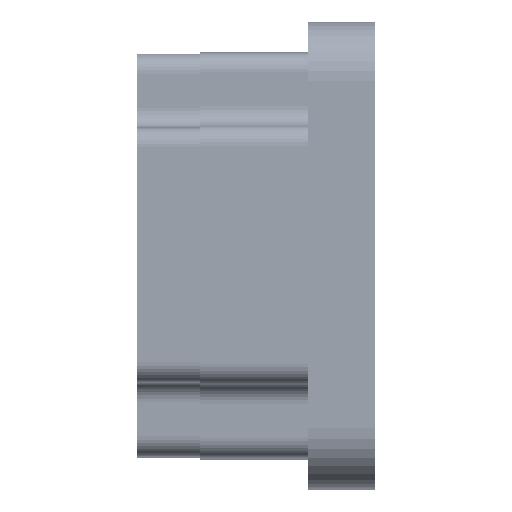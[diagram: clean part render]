
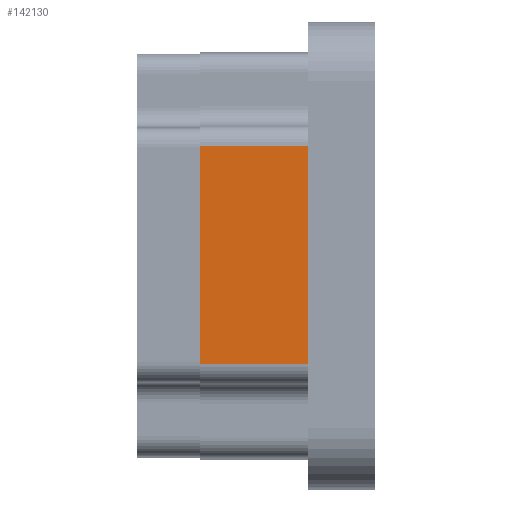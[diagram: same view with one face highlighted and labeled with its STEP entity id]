
A CAD part, top view. The second image highlights one B-rep face of the part: STEP entity #142130.
In plain terms, the highlighted planar face has unit normal (0, 0, 1).
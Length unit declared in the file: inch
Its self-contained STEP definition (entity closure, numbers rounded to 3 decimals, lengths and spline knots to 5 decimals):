
#140685=CARTESIAN_POINT('',(-0.39902,0.38975,4.435));
#140686=VERTEX_POINT('',#140685);
#140694=CARTESIAN_POINT('',(-0.39902,1.07775,4.435));
#140695=VERTEX_POINT('',#140694);
#140696=CARTESIAN_POINT('',(-0.39902,1.07775,4.435));
#140697=DIRECTION('',(0.0,-1.0,0.0));
#140698=VECTOR('',#140697,0.68799);
#140699=LINE('',#140696,#140698);
#140700=EDGE_CURVE('',#140695,#140686,#140699,.T.);
#141662=CARTESIAN_POINT('',(-0.05902,0.38975,4.435));
#141663=VERTEX_POINT('',#141662);
#141671=CARTESIAN_POINT('',(-0.05902,0.38975,4.435));
#141672=DIRECTION('',(-1.0,0.0,0.0));
#141673=VECTOR('',#141672,0.34);
#141674=LINE('',#141671,#141673);
#141675=EDGE_CURVE('',#141663,#140686,#141674,.T.);
#141890=CARTESIAN_POINT('',(-0.05902,1.07775,4.435));
#141891=VERTEX_POINT('',#141890);
#141899=CARTESIAN_POINT('',(-0.05902,1.07775,4.435));
#141900=DIRECTION('',(0.0,-1.0,0.0));
#141901=VECTOR('',#141900,0.68799);
#141902=LINE('',#141899,#141901);
#141903=EDGE_CURVE('',#141891,#141663,#141902,.T.);
#142103=CARTESIAN_POINT('',(-0.39902,1.07775,4.435));
#142104=DIRECTION('',(1.0,0.0,0.0));
#142105=VECTOR('',#142104,0.34);
#142106=LINE('',#142103,#142105);
#142107=EDGE_CURVE('',#140695,#141891,#142106,.T.);
#142119=CARTESIAN_POINT('',(0.15098,1.14025,4.435));
#142120=DIRECTION('',(0.0,0.0,1.0));
#142121=DIRECTION('',(-1.0,0.0,0.0));
#142122=AXIS2_PLACEMENT_3D('',#142119,#142120,#142121);
#142123=PLANE('',#142122);
#142124=ORIENTED_EDGE('',*,*,#141675,.F.);
#142125=ORIENTED_EDGE('',*,*,#141903,.F.);
#142126=ORIENTED_EDGE('',*,*,#142107,.F.);
#142127=ORIENTED_EDGE('',*,*,#140700,.T.);
#142128=EDGE_LOOP('',(#142124,#142125,#142126,#142127));
#142129=FACE_OUTER_BOUND('',#142128,.T.);
#142130=ADVANCED_FACE('',(#142129),#142123,.T.);
